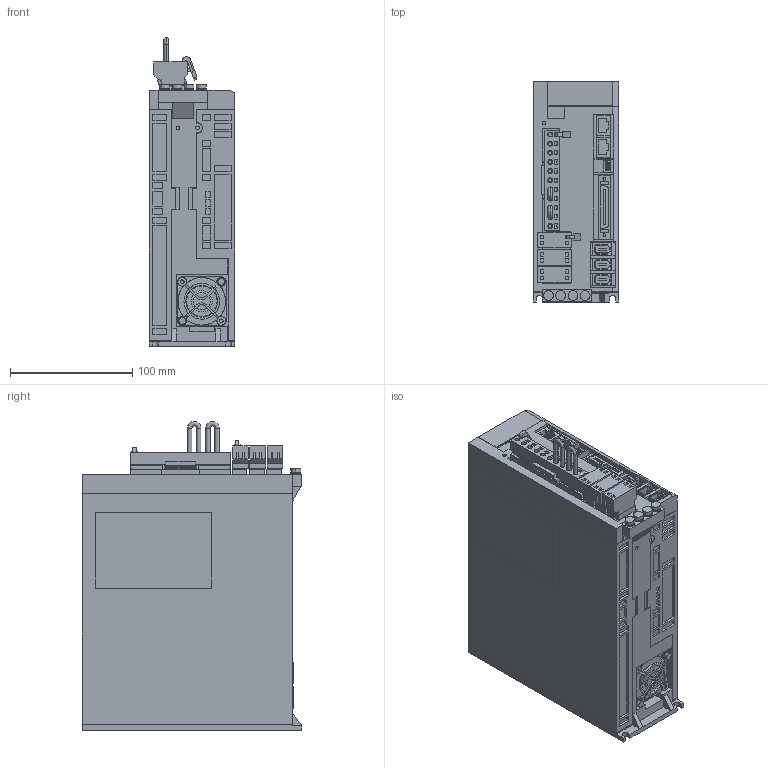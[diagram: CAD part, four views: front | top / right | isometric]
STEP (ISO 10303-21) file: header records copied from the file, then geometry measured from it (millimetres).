
FILE_DESCRIPTION (( 'STEP AP203' ), '1' );
FILE_NAME ('sgdxt_2r8a__a.STEP', '2022-05-30T09:15:36', ( 'YMANOUCHI' ), ( 'TAKUMI-Engniaring' ), 'SwSTEP 2.0', 'SolidWorks 2005204', '' );
FILE_SCHEMA (( 'CONFIG_CONTROL_DESIGN' ));
Length unit declared in the file: millimetre
Products named in the file (9): sgdxt_2r8a__a_connector2; sgdxt_2r8a__a_pin2; sgdxt_2r8a__a_connector_1; sgdxt_2r8a__a_base; sgdxt_2r8a__a; sgdxt_2r8a__a_connector_2; sgdxt_2r8a__a_pin; sgdxt_2r8a__a_cable; sgdxt_2r8a__a_cover
Assembly tree (11 placements, depth 3):
  sgdxt_2r8a__a
    sgdxt_2r8a__a_connector2
      sgdxt_2r8a__a_cable  x2
      sgdxt_2r8a__a_connector_2
      sgdxt_2r8a__a_pin
    sgdxt_2r8a__a_connector_1  x3
    sgdxt_2r8a__a_base
    sgdxt_2r8a__a_pin2
    sgdxt_2r8a__a_cover
Bounding box: 70 x 180 x 253 mm (x, y, z)
Volume: 2511060.7 mm3; surface area: 182733.5 mm2
Topology: 10 solids, 10 shells, 1806 faces, 4711 edges, 3100 vertices
Faces by surface type: plane 1615, cylinder 187, torus 4
Entity records: 51974 total; most frequent: CARTESIAN_POINT 9006, ORIENTED_EDGE 8814, DIRECTION 8209, EDGE_CURVE 4407, VECTOR 3995, LINE 3995, VERTEX_POINT 2904, AXIS2_PLACEMENT_3D 2107
